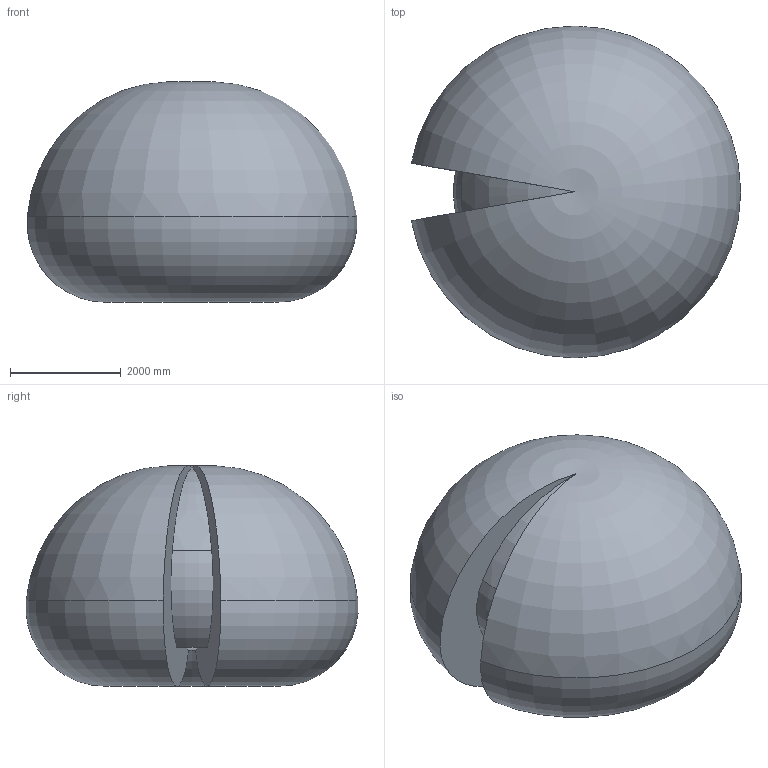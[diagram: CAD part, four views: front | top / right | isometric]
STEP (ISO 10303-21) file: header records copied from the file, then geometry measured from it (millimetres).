
FILE_DESCRIPTION (( 'STEP AP214' ), '1' );
FILE_NAME ('IRB6740-MH3_260kg-300_OC_00_Working-space.step', '2026-05-07T13:29:10', ( '' ), ( '' ), 'SwSTEP 2.0', 'SolidWorks 2024', '' );
FILE_SCHEMA (( 'AUTOMOTIVE_DESIGN' ));
Length unit declared in the file: millimetre
Products named in the file (1): IRB6740-MH3_260kg-300_OC_00_Working-space
Bounding box: 5939.61 x 5985.07 x 3970.28 mm (x, y, z)
Volume: 73379391061.7 mm3; surface area: 117077505 mm2
Topology: 1 solids, 1 shells, 10 faces, 26 edges, 14 vertices
Faces by surface type: torus 8, plane 2
Entity records: 315 total; most frequent: DIRECTION 66, CARTESIAN_POINT 47, ORIENTED_EDGE 44, AXIS2_PLACEMENT_3D 33, EDGE_CURVE 22, CIRCLE 22, VERTEX_POINT 14, ADVANCED_FACE 10
